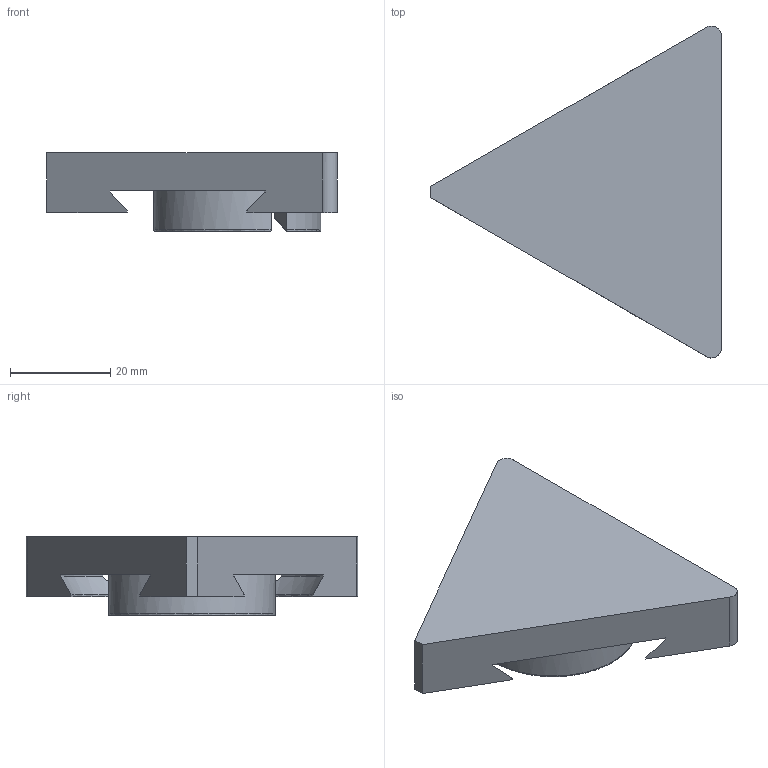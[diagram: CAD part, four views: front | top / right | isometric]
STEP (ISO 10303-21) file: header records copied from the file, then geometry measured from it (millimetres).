
FILE_DESCRIPTION(/* description */ (''),/* implementation_level */ '2;1');
FILE_NAME(/* name */ 'LOCKED~1',/* time_stamp */ '2017-07-31T14:19:17-07:00',/* author */ (''),/* organization */ (''),/* preprocessor_version */ 'ST-DEVELOPER v15',/* originating_system */ '',/* authorisation */ '');
FILE_SCHEMA (('AUTOMOTIVE_DESIGN'));
Length unit declared in the file: millimetre
Products named in the file (1): Document
Bounding box: 58.09 x 66.35 x 15.77 mm (x, y, z)
Volume: 19890.1 mm3; surface area: 8445.9 mm2
Topology: 1 solids, 1 shells, 61 faces, 174 edges, 116 vertices
Faces by surface type: bspline 33, plane 28
Entity records: 3440 total; most frequent: CARTESIAN_POINT 2384, ORIENTED_EDGE 348, EDGE_CURVE 174, B_SPLINE_CURVE_WITH_KNOTS 120, VERTEX_POINT 116, EDGE_LOOP 62, ADVANCED_FACE 61, FACE_OUTER_BOUND 61
